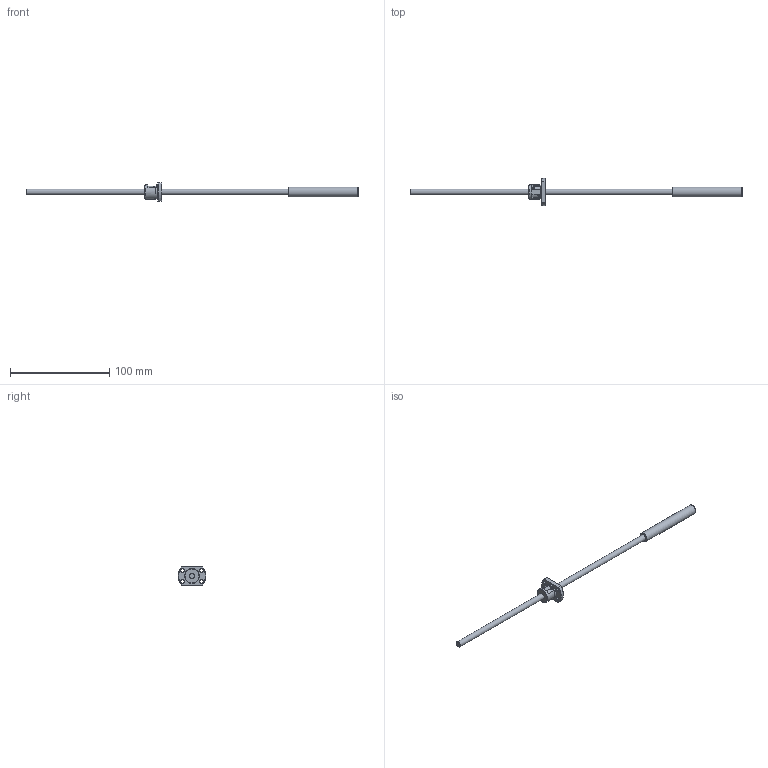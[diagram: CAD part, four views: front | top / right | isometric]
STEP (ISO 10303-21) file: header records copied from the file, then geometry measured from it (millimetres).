
FILE_DESCRIPTION(/* description */ ('STEP AP214'),/* implementation_level */ '2;1');
FILE_NAME(/* name */ 'SRT0602-261R335C7A0X(120None)',/* time_stamp */ '2026-08-04T17:55:28+02:00',/* author */ ('License CC BY-ND 4.0'),/* organization */ ('CADENAS'),/* preprocessor_version */ 'ST-DEVELOPER v20',/* originating_system */ 'PARTsolutions',/* authorisation */ ' ');
FILE_SCHEMA (('AUTOMOTIVE_DESIGN {1 0 10303 214 3 1 1}'));
Length unit declared in the file: millimetre
Products named in the file (3): SRT0602-261R335C7A0X(120None); SRT0602-261R335ACt7None18Shaft; SRT0602Nut
Assembly tree (2 placements, depth 2):
  SRT0602-261R335C7A0X(120None)
    SRT0602-261R335ACt7None18Shaft
    SRT0602Nut
Bounding box: 335 x 27.9 x 19 mm (x, y, z)
Volume: 16105.2 mm3; surface area: 9540.7 mm2
Topology: 2 solids, 2 shells, 56 faces, 135 edges, 87 vertices
Faces by surface type: plane 26, cone 15, cylinder 15
Full cylindrical faces by diameter (mm): 2 x2, 3.4 x4, 6 x2, 9.7 x1, 14.5 x1, 15 x1
Entity records: 1599 total; most frequent: CARTESIAN_POINT 319, DIRECTION 260, ORIENTED_EDGE 218, AXIS2_PLACEMENT_3D 112, EDGE_CURVE 109, EDGE_LOOP 86, FACE_BOUND 86, VERTEX_POINT 77
